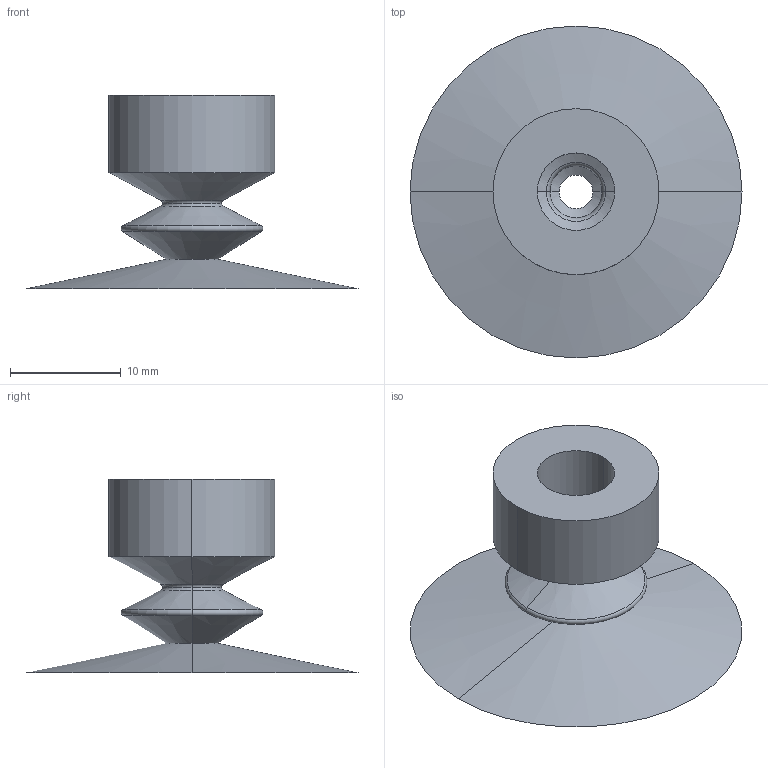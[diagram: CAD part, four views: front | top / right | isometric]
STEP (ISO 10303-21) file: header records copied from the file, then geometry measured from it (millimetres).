
FILE_DESCRIPTION (( 'STEP AP214' ), '1' );
FILE_NAME ('VSH2-S30.STEP', '2019-12-02T06:05:15', ( '微软用户' ), ( '微软中国' ), 'SwSTEP 2.0', 'SolidWorks 2016', '' );
FILE_SCHEMA (( 'AUTOMOTIVE_DESIGN' ));
Length unit declared in the file: millimetre
Products named in the file (1): VSH2-S30
Bounding box: 30 x 30 x 17.5 mm (x, y, z)
Volume: 1039.6 mm3; surface area: 3063 mm2
Topology: 1 solids, 1 shells, 35 faces, 70 edges, 38 vertices
Faces by surface type: cone 16, torus 10, cylinder 6, plane 3
Entity records: 942 total; most frequent: DIRECTION 190, CARTESIAN_POINT 144, ORIENTED_EDGE 140, AXIS2_PLACEMENT_3D 84, EDGE_CURVE 70, CIRCLE 48, VERTEX_POINT 38, EDGE_LOOP 38
